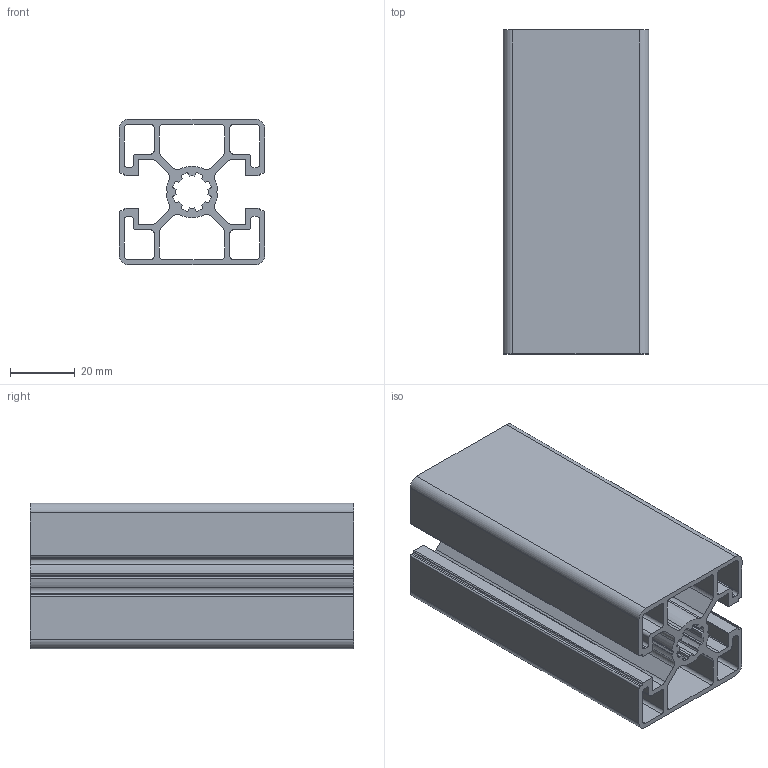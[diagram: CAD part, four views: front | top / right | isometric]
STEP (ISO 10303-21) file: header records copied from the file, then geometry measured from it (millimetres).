
FILE_DESCRIPTION (( 'STEP AP203' ), '1' );
FILE_NAME ('0110P4545-2N180.STEP', '2024-03-01T11:35:51', ( 'Windows-Benutzer' ), ( '' ), 'SwSTEP 2.0', 'SolidWorks 2023', '' );
FILE_SCHEMA (( 'CONFIG_CONTROL_DESIGN' ));
Length unit declared in the file: millimetre
Products named in the file (1): 0110P4545-2N180
Bounding box: 45 x 100 x 45 mm (x, y, z)
Volume: 58699.9 mm3; surface area: 61790.7 mm2
Topology: 1 solids, 1 shells, 212 faces, 630 edges, 420 vertices
Faces by surface type: cylinder 126, plane 86
Entity records: 7311 total; most frequent: DIRECTION 1308, CARTESIAN_POINT 1263, ORIENTED_EDGE 1260, EDGE_CURVE 630, AXIS2_PLACEMENT_3D 465, VERTEX_POINT 420, LINE 378, VECTOR 378
